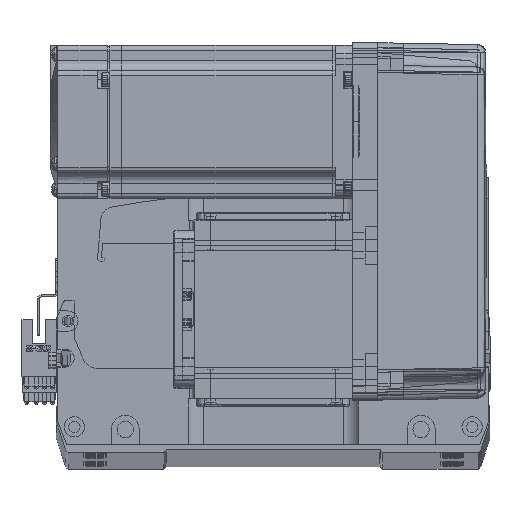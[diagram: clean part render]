
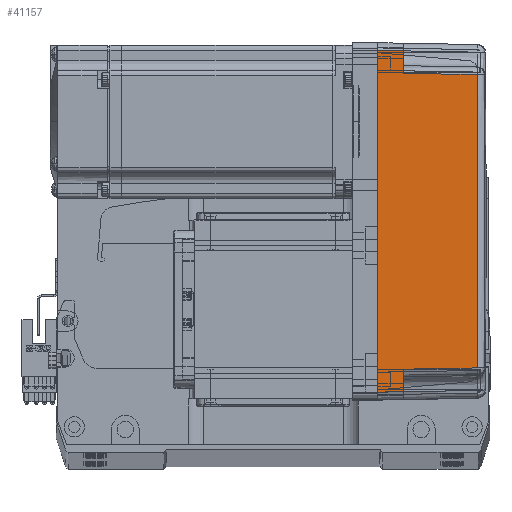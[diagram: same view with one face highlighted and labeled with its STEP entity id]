
A CAD part, top view. The second image highlights one B-rep face of the part: STEP entity #41157.
In plain terms, the highlighted planar face has unit normal (0.018, 0, 1) as drawn and (0, -1, 0.017) by its records, which use the part's own axes.
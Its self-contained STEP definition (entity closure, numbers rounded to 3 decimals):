
#1338 = DIRECTION ( 'NONE',  ( -1., 0., 0. ) ) ;
#3350 = EDGE_CURVE ( 'NONE', #31712, #42108, #45012, .T. ) ;
#4185 = VECTOR ( 'NONE', #35986, 1000. ) ;
#6148 = DIRECTION ( 'NONE',  ( 0.017, 0.017, 1. ) ) ;
#7444 = CARTESIAN_POINT ( 'NONE',  ( -58., -35.825, 10. ) ) ;
#8119 = CARTESIAN_POINT ( 'NONE',  ( -57.495, -35.32, 38.985 ) ) ;
#9595 = VERTEX_POINT ( 'NONE', #53595 ) ;
#11157 = CARTESIAN_POINT ( 'NONE',  ( 70., -35.825, 10. ) ) ;
#11395 = VERTEX_POINT ( 'NONE', #7444 ) ;
#11627 = EDGE_CURVE ( 'NONE', #11395, #21372, #66173, .T. ) ;
#11965 = PLANE ( 'NONE',  #45654 ) ;
#12019 = CARTESIAN_POINT ( 'NONE',  ( -66.826, -35.825, 10. ) ) ;
#12651 = VECTOR ( 'NONE', #56228, 1000. ) ;
#14769 = VERTEX_POINT ( 'NONE', #8119 ) ;
#16274 = DIRECTION ( 'NONE',  ( -0.017, 0.017, 1. ) ) ;
#18166 = VERTEX_POINT ( 'NONE', #64392 ) ;
#19065 = ORIENTED_EDGE ( 'NONE', *, *, #32200, .F. ) ;
#21372 = VERTEX_POINT ( 'NONE', #12019 ) ;
#21737 = ORIENTED_EDGE ( 'NONE', *, *, #30545, .T. ) ;
#26314 = CARTESIAN_POINT ( 'NONE',  ( 70., -35.825, 10. ) ) ;
#26525 = EDGE_CURVE ( 'NONE', #14769, #11395, #42673, .T. ) ;
#26814 = B_SPLINE_CURVE_WITH_KNOTS ( 'NONE', 3,
 ( #31284, #32277, #49359, #60835 ),
 .UNSPECIFIED., .F., .F.,
 ( 4, 4 ),
 ( 0., 1. ),
 .UNSPECIFIED. ) ;
#28183 = DIRECTION ( 'NONE',  ( 0., -1., 0.017 ) ) ;
#29842 = ORIENTED_EDGE ( 'NONE', *, *, #64136, .T. ) ;
#30545 = EDGE_CURVE ( 'NONE', #18166, #31712, #54140, .T. ) ;
#31284 = CARTESIAN_POINT ( 'NONE',  ( 57.495, -35.32, 38.985 ) ) ;
#31553 = FACE_OUTER_BOUND ( 'NONE', #40160, .T. ) ;
#31712 = VERTEX_POINT ( 'NONE', #51948 ) ;
#32200 = EDGE_CURVE ( 'NONE', #43941, #9595, #36883, .T. ) ;
#32277 = CARTESIAN_POINT ( 'NONE',  ( 19.165, -35.316, 39.181 ) ) ;
#33656 = ORIENTED_EDGE ( 'NONE', *, *, #11627, .T. ) ;
#33734 = ORIENTED_EDGE ( 'NONE', *, *, #37242, .F. ) ;
#35986 = DIRECTION ( 'NONE',  ( -0.017, -0.017, -1. ) ) ;
#36883 = LINE ( 'NONE', #53106, #57524 ) ;
#37242 = EDGE_CURVE ( 'NONE', #9595, #21372, #55223, .T. ) ;
#38423 = VECTOR ( 'NONE', #51172, 1000. ) ;
#39353 = ORIENTED_EDGE ( 'NONE', *, *, #42991, .T. ) ;
#40160 = EDGE_LOOP ( 'NONE', ( #29842, #21737, #50366, #39353, #72191, #33656, #33734, #19065 ) ) ;
#40215 = DIRECTION ( 'NONE',  ( 0., -0.017, -1. ) ) ;
#40409 = CARTESIAN_POINT ( 'NONE',  ( -66.959, -35.958, 2.39 ) ) ;
#41157 = ADVANCED_FACE ( 'NONE', ( #31553 ), #11965, .T. ) ;
#42108 = VERTEX_POINT ( 'NONE', #72536 ) ;
#42673 = LINE ( 'NONE', #59272, #4185 ) ;
#42991 = EDGE_CURVE ( 'NONE', #42108, #14769, #26814, .T. ) ;
#43941 = VERTEX_POINT ( 'NONE', #73035 ) ;
#45008 = CARTESIAN_POINT ( 'NONE',  ( 58., -35.825, 10. ) ) ;
#45012 = LINE ( 'NONE', #45008, #12651 ) ;
#45654 = AXIS2_PLACEMENT_3D ( 'NONE', #51989, #28183, #40215 ) ;
#49359 = CARTESIAN_POINT ( 'NONE',  ( -19.165, -35.316, 39.181 ) ) ;
#50366 = ORIENTED_EDGE ( 'NONE', *, *, #3350, .T. ) ;
#51172 = DIRECTION ( 'NONE',  ( -1., 0., 0. ) ) ;
#51948 = CARTESIAN_POINT ( 'NONE',  ( 58., -35.825, 10. ) ) ;
#51989 = CARTESIAN_POINT ( 'NONE',  ( 70., -36., 0. ) ) ;
#53106 = CARTESIAN_POINT ( 'NONE',  ( 0., -36., 0. ) ) ;
#53595 = CARTESIAN_POINT ( 'NONE',  ( -67., -36., 0. ) ) ;
#54140 = LINE ( 'NONE', #26314, #72873 ) ;
#55223 = LINE ( 'NONE', #40409, #70380 ) ;
#56228 = DIRECTION ( 'NONE',  ( -0.017, 0.017, 1. ) ) ;
#57524 = VECTOR ( 'NONE', #1338, 1000. ) ;
#58117 = LINE ( 'NONE', #62510, #62576 ) ;
#59272 = CARTESIAN_POINT ( 'NONE',  ( -57.495, -35.32, 38.985 ) ) ;
#60835 = CARTESIAN_POINT ( 'NONE',  ( -57.495, -35.32, 38.985 ) ) ;
#62510 = CARTESIAN_POINT ( 'NONE',  ( 67., -36., 0. ) ) ;
#62576 = VECTOR ( 'NONE', #16274, 1000. ) ;
#64136 = EDGE_CURVE ( 'NONE', #43941, #18166, #58117, .T. ) ;
#64392 = CARTESIAN_POINT ( 'NONE',  ( 66.826, -35.825, 10. ) ) ;
#66173 = LINE ( 'NONE', #11157, #38423 ) ;
#70380 = VECTOR ( 'NONE', #6148, 1000. ) ;
#72061 = DIRECTION ( 'NONE',  ( -1., 0., 0. ) ) ;
#72191 = ORIENTED_EDGE ( 'NONE', *, *, #26525, .T. ) ;
#72536 = CARTESIAN_POINT ( 'NONE',  ( 57.495, -35.32, 38.985 ) ) ;
#72873 = VECTOR ( 'NONE', #72061, 1000. ) ;
#73035 = CARTESIAN_POINT ( 'NONE',  ( 67., -36., 0. ) ) ;
